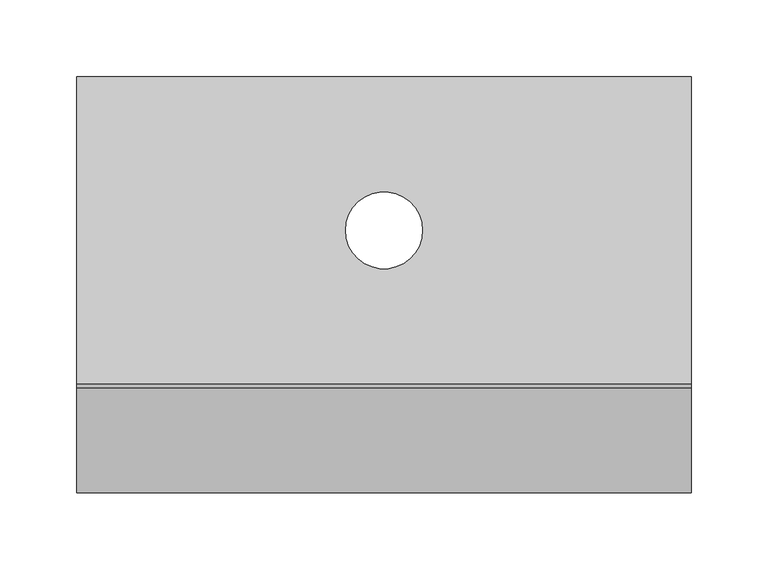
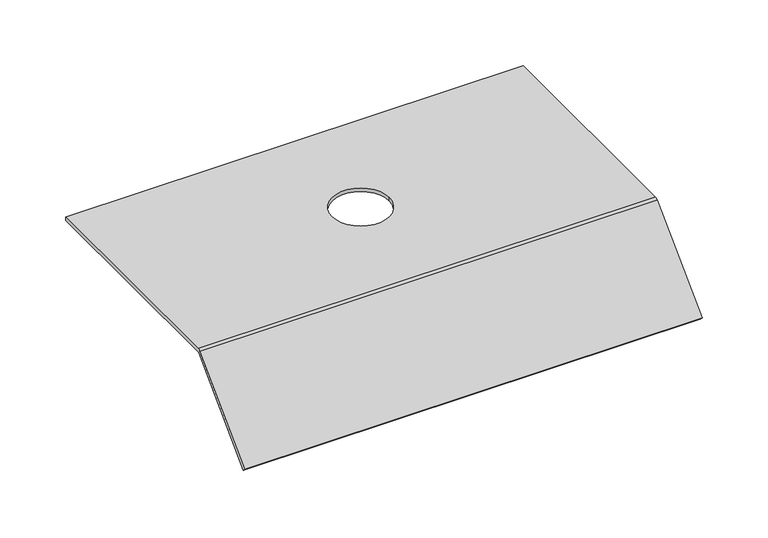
"""IFC4 building model written with IfcOpenShell, lengths in millimetres: proxy geometry, Electrical_Installation_Hager_Covers-With-Installation-Opening-GBZ : Electrical_Installation_Hager_Covers-With-Installation-Opening-GBZ."""

from ifc_helpers import new_model, si_unit, frame, origin, place, context, project, spatial, polyline, circle_curve, source, transform, mapped, element, save
from ifc_brep_helpers import plane_surface, cylinder_surface, revolved_surface, advanced_brep


def electrical_fixtures_258d29b7(model_context):
    return source(origin(), model_context, "Body", "AdvancedBrep", [
        advanced_brep(
        [(0.0, 100.0, 40.5), (0.0, 100.0, 37.5), (0.0, -99.8229541, 37.5), (0.0, -100.8322972, 37.0819164), (0.0, -168.712807, -30.7985934), (0.0, -170.8341273, -28.6772731), (0.0, -102.8206472, 39.336207), (0.0, -100.0110025, 40.5), (400.0, 100.0, 40.5), (400.0, -100.0110025, 40.5), (400.0, -102.8206472, 39.336207), (400.0, -170.8341273, -28.6772731), (400.0, -168.712807, -30.7985934), (400.0, -100.8322972, 37.0819164), (400.0, -99.8229541, 37.5), (400.0, 100.0, 37.5), (175.0, 0.0, 37.5), (225.0, 0.0, 37.5), (225.0, 0.0, 40.5), (175.0, 0.0, 40.5)],
        [
            (0, 1),
            (1, 2),
            (2, 3, circle_curve(frame((0.0, -99.8229541, 36.0725733), z_axis=(1.0, 0.0, 0.0), x_axis=(0.0, 1.0, 0.0)), 1.4274267)),
            (3, 4),
            (4, 5),
            (5, 6),
            (6, 7, circle_curve(frame((0.0, -100.0110025, 36.5265623), z_axis=(-1.0, 0.0, 0.0), x_axis=(0.0, 1.0, 0.0)), 3.9734377)),
            (7, 0),
            (8, 9),
            (9, 10, circle_curve(frame((400.0, -100.0110025, 36.5265623), z_axis=(1.0, 0.0, 0.0), x_axis=(0.0, 1.0, 0.0)), 3.9734377)),
            (10, 11),
            (11, 12),
            (12, 13),
            (13, 14, circle_curve(frame((400.0, -99.8229541, 36.0725733), z_axis=(-1.0, 0.0, 0.0), x_axis=(0.0, 1.0, 0.0)), 1.4274267)),
            (14, 15),
            (15, 8),
            (0, 8),
            (15, 1),
            (14, 2),
            (16, 17, circle_curve(frame((200.0, 0.0, 37.5), z_axis=(0.0, 0.0, 1.0), x_axis=(1.0, 0.0, 0.0)), 25.0)),
            (17, 16, circle_curve(frame((200.0, 0.0, 37.5), z_axis=(0.0, 0.0, 1.0), x_axis=(1.0, 0.0, 0.0)), 25.0)),
            (13, 3),
            (12, 4),
            (11, 5),
            (10, 6),
            (9, 7),
            (18, 19, circle_curve(frame((200.0, 0.0, 40.5), z_axis=(0.0, 0.0, -1.0), x_axis=(1.0, 0.0, 0.0)), 25.0)),
            (19, 18, circle_curve(frame((200.0, 0.0, 40.5), z_axis=(0.0, 0.0, -1.0), x_axis=(1.0, 0.0, 0.0)), 25.0)),
            (16, 19),
            (18, 17),
        ],
        [
            plane_surface(frame((0.0, 0.3269864, 15.0), z_axis=(-1.0, 0.0, 0.0), x_axis=(0.0, 0.0, 1.0))),
            plane_surface(frame((400.0, 0.3269864, 15.0), z_axis=(1.0, 0.0, 0.0), x_axis=(0.0, 0.0, 1.0))),
            plane_surface(frame((0.0, 100.0, 40.5), z_axis=(0.0, 1.0, 0.0), x_axis=(1.0, 0.0, 0.0))),
            plane_surface(frame((0.0, 100.0, 37.5), z_axis=(0.0, 0.0, -1.0), x_axis=(1.0, 0.0, 0.0))),
            revolved_surface(polyline([(400.0, -98.3955274, 36.0725733), (0.0, -98.3955274, 36.0725733)]), (0.0, -99.8229541, 36.0725733), (1.0, 0.0, 0.0)),
            plane_surface(frame((0.0, -100.8322972, 37.0819164), z_axis=(0.0, 0.7071067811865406, -0.7071067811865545), x_axis=(1.0, 0.0, 0.0))),
            plane_surface(frame((0.0, -168.712807, -30.7985934), z_axis=(0.0, -0.7071067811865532, -0.7071067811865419), x_axis=(1.0, 0.0, 0.0))),
            plane_surface(frame((0.0, -170.8341273, -28.6772731), z_axis=(0.0, -0.7071067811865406, 0.7071067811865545), x_axis=(1.0, 0.0, 0.0))),
            cylinder_surface(frame((0.0, -100.0110025, 36.5265623), z_axis=(-1.0, 0.0, 0.0), x_axis=(0.0, 1.0, 0.0)), 3.9734377),
            plane_surface(frame((0.0, -100.0110025, 40.5), z_axis=(0.0, 0.0, 1.0), x_axis=(1.0, 0.0, 0.0))),
            revolved_surface(polyline([(225.0, 0.0, 40.5), (225.0, 0.0, 37.5)]), (200.0, 0.0, 0.0), (0.0, 0.0, 1.0)),
        ],
        [
            (0, [[1, 2, 3, 4, 5, 6, 7, 8]]),
            (1, [[9, 10, 11, 12, 13, 14, 15, 16]]),
            (2, [[-1, 17, -16, 18]]),
            (3, [[-2, -18, -15, 19], [20, 21]]),
            (4, [[-3, -19, -14, 22]]),
            (5, [[-4, -22, -13, 23]]),
            (6, [[-5, -23, -12, 24]]),
            (7, [[-6, -24, -11, 25]]),
            (8, [[-7, -25, -10, 26]]),
            (9, [[-8, -26, -9, -17], [27, 28]]),
            (10, [[29, -27, 30, -20]]),
            (10, [[-29, -21, -30, -28]]),
        ],
    ),
    ])


if __name__ == "__main__":
    model = new_model("IFC4")
    model_context = context("Model", 3, world=origin())
    ifc_project = project(units=[si_unit("LENGTHUNIT", "METRE", prefix="MILLI")], contexts=[model_context])
    site = spatial("IfcSite", under=ifc_project)
    building = spatial("IfcBuilding", under=site)
    placement = place(None, origin())
    electrical_fixtures_shape = electrical_fixtures_258d29b7(model_context)
    element("IfcBuildingElementProxy", 1, Name="Electrical_Installation_Hager_Covers-With-Installation-Opening-GBZ : Electrical_Installation_Hager_Covers-With-Installation-Opening-GBZ", ObjectType="Electrical_Installation_Hager_Covers-With-Installation-Opening-GBZ : Electrical_Installation_Hager_Covers-With-Installation-Opening-GBZ", at=placement, inside=building, context=model_context, shape_type="MappedRepresentation", body=[
        mapped(electrical_fixtures_shape, transform((0.0, 0.0, 0.0), x_axis=(1.0, 0.0, 0.0), y_axis=(0.0, 1.0, 0.0), z_axis=(0.0, 0.0, 1.0))),
    ])
    save(model, "model.ifc")
